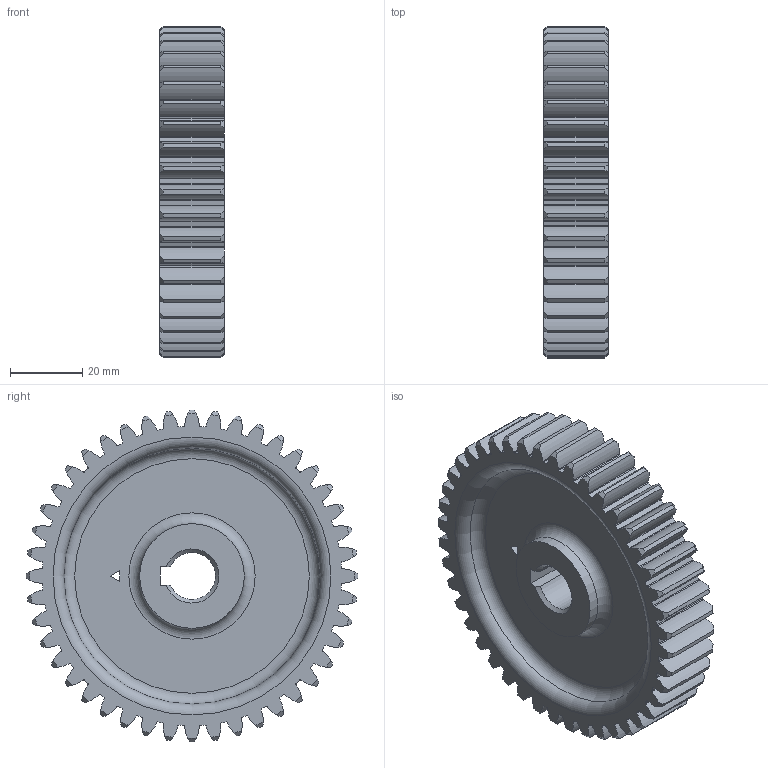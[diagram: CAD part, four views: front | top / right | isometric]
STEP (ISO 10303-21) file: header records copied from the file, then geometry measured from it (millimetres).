
FILE_DESCRIPTION(/* description */ (''),/* implementation_level */ '2;1');
FILE_NAME(/* name */ '',/* time_stamp */ '2025-02-24T13:54:43+09:00',/* author */ ('jhkim'),/* organization */ (''),/* preprocessor_version */ 'ST-DEVELOPER v20',/* originating_system */ 'Autodesk Inventor 2025',/* authorisation */ '');
FILE_SCHEMA (('AUTOMOTIVE_DESIGN { 1 0 10303 214 3 1 1 }'));
Length unit declared in the file: millimetre
Products named in the file (1): 스퍼 기어
Bounding box: 18 x 92 x 92 mm (x, y, z)
Volume: 66434.2 mm3; surface area: 24712.2 mm2
Topology: 1 solids, 1 shells, 375 faces, 1105 edges, 736 vertices
Faces by surface type: cylinder 267, cone 90, plane 12, torus 6
Full cylindrical faces by diameter (mm): 29 x2
Entity records: 13086 total; most frequent: CARTESIAN_POINT 2753, DIRECTION 2317, ORIENTED_EDGE 2210, EDGE_CURVE 1105, AXIS2_PLACEMENT_3D 1016, VERTEX_POINT 736, CIRCLE 640, EDGE_LOOP 383
